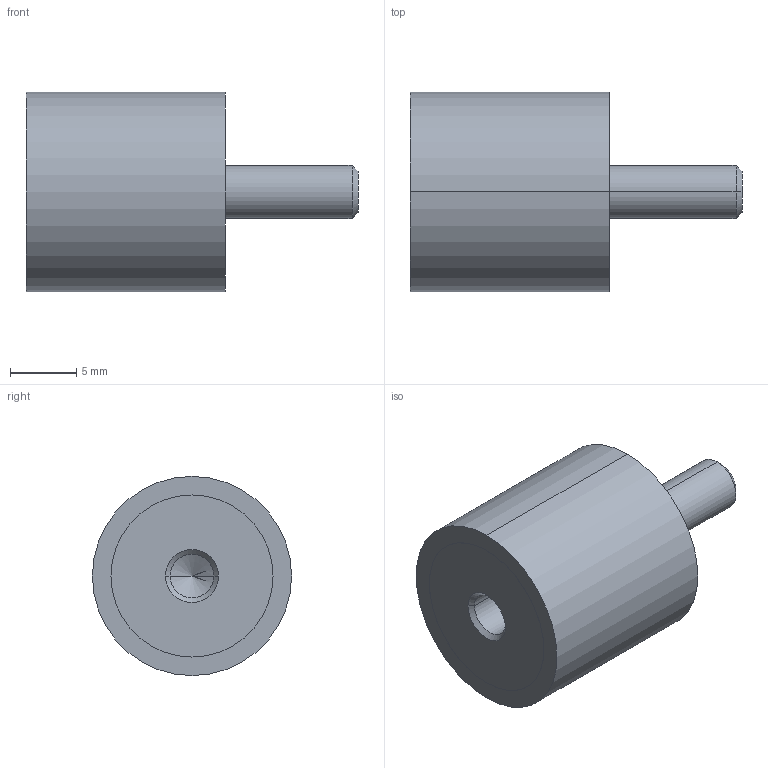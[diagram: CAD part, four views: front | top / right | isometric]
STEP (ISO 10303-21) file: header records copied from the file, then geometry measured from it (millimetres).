
FILE_DESCRIPTION (( 'STEP AP214' ), '1' );
FILE_NAME ('351-15-15-M4-ES-70.step', '2025-07-23T09:41:46', ( '' ), ( '' ), 'SwSTEP 2.0', 'SolidWorks 2022', '' );
FILE_SCHEMA (( 'AUTOMOTIVE_DESIGN' ));
Length unit declared in the file: millimetre
Products named in the file (1): 351-15-15-M4-ES-70
Bounding box: 25 x 15 x 15 mm (x, y, z)
Volume: 2727.1 mm3; surface area: 1234.3 mm2
Topology: 1 solids, 1 shells, 24 faces, 48 edges, 29 vertices
Faces by surface type: cylinder 12, cone 6, plane 6
Entity records: 740 total; most frequent: DIRECTION 124, CARTESIAN_POINT 100, ORIENTED_EDGE 92, AXIS2_PLACEMENT_3D 53, EDGE_CURVE 46, VERTEX_POINT 29, EDGE_LOOP 29, CIRCLE 28
